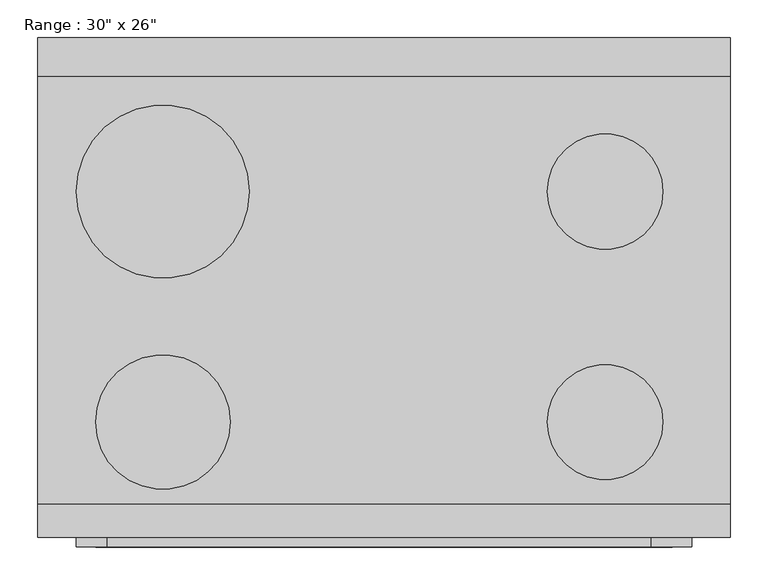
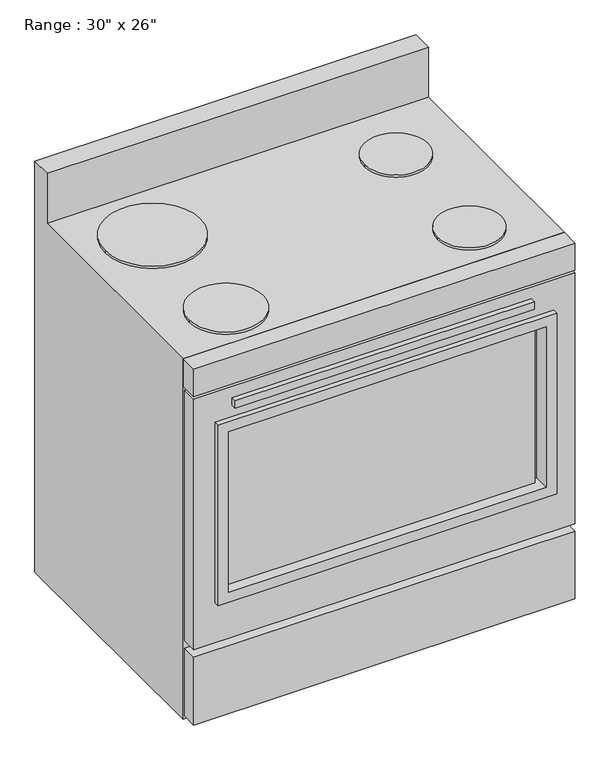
"""IFC4 building model written with IfcOpenShell, lengths in millimetres: proxy geometry."""

import ifcopenshell
import ifcopenshell.guid

model = None  # the IFC model being written
_history = None  # IfcOwnerHistory: only IFC2X3 demands one
_inside = {}  # id of a spatial element -> (the spatial element, [elements in it])
_under = {}  # id of a project, library or spatial element -> (it, [spatial elements below it])
_declared = {}  # id of a project -> (the project, [libraries it declares])
_typed = {}  # id of a type object -> (the type object, [elements of that type])
_made_of = {}  # id of a material, layer set ... -> (it, [elements and type objects made of it])


def new_model(schema):
    """Start an empty IFC model of exactly this schema.

    Asked for "IFC4X3", IfcOpenShell would pick the latest addendum, in which some entities
    have other attributes; the version numbers below select the first issue.
    IFC2X3 requires an IfcOwnerHistory on every rooted entity: one is made here for all.
    """
    global model, _history
    if schema == "IFC4X3":
        model = ifcopenshell.file(schema_version=(4, 3, 0, 0))
    else:
        model = ifcopenshell.file(schema=schema)
    _inside.clear()
    _under.clear()
    _declared.clear()
    _typed.clear()
    _made_of.clear()
    _history = None
    if model.schema == "IFC2X3":
        org = make("IfcOrganization", Name="unknown")
        user = make(
            "IfcPersonAndOrganization",
            ThePerson=make("IfcPerson", FamilyName="unknown"),
            TheOrganization=org,
        )
        app = make(
            "IfcApplication",
            ApplicationDeveloper=org,
            Version="unknown",
            ApplicationFullName="unknown",
            ApplicationIdentifier="unknown",
        )
        _history = make(
            "IfcOwnerHistory",
            OwningUser=user,
            OwningApplication=app,
            ChangeAction="ADDED",
            CreationDate=0,
        )
    return model


def make(cls, **values):
    """One entity of the class cls with the attributes given. An attribute that is None is left unset."""
    return model.create_entity(
        cls, **{name: value for name, value in values.items() if value is not None}
    )


def rooted(cls, **values):
    """An entity with a GlobalId (a new one), such as an element, a storey or a relation."""
    return make(cls, GlobalId=ifcopenshell.guid.new(), OwnerHistory=_history, **values)


def si_unit(unit_type, name, prefix=None):
    """IfcSIUnit, for example si_unit("LENGTHUNIT", "METRE", prefix="MILLI")."""
    return make("IfcSIUnit", UnitType=unit_type, Prefix=prefix, Name=name)


def assignment(units):
    """IfcUnitAssignment: the units of a project."""
    return None if units is None else make("IfcUnitAssignment", Units=units)


def point(xyz):
    """IfcCartesianPoint."""
    return None if xyz is None else make("IfcCartesianPoint", Coordinates=xyz)


def direction(xyz):
    """IfcDirection."""
    return None if xyz is None else make("IfcDirection", DirectionRatios=xyz)


def frame(location, z_axis=None, x_axis=None):
    """IfcAxis2Placement3D, a coordinate frame: its origin and axes. An axis left out is left unset."""
    return make(
        "IfcAxis2Placement3D",
        Location=point(location),
        Axis=direction(z_axis),
        RefDirection=direction(x_axis),
    )


def frame_2d(location, x_axis=None):
    """IfcAxis2Placement2D, a coordinate frame in the plane: its origin and x axis."""
    return make(
        "IfcAxis2Placement2D", Location=point(location), RefDirection=direction(x_axis)
    )


def origin():
    """The frame at (0, 0, 0) with its axes left unset."""
    return frame((0.0, 0.0, 0.0))


def place(relative_to, where):
    """IfcLocalPlacement: puts the frame where relative to a parent placement (None: the world)."""
    return make(
        "IfcLocalPlacement", PlacementRelTo=relative_to, RelativePlacement=where
    )


def context(
    kind, dimensions, precision=None, world=None, true_north=None, identifier=None
):
    """IfcGeometricRepresentationContext, for example the 3D "Model" context."""
    return make(
        "IfcGeometricRepresentationContext",
        ContextIdentifier=identifier,
        ContextType=kind,
        CoordinateSpaceDimension=dimensions,
        Precision=precision,
        WorldCoordinateSystem=world,
        TrueNorth=true_north,
    )


def project(units=None, contexts=None):
    """IfcProject with its units and contexts."""
    return rooted(
        "IfcProject",
        Name="project",
        RepresentationContexts=contexts,
        UnitsInContext=assignment(units),
    )


def spatial(cls, under=None, at=None, **own):
    """A site, building, storey or space (cls), placed at a placement, below another one or the project."""
    s = rooted(cls, ObjectPlacement=at, **own)
    if under is not None:
        _under.setdefault(under.id(), (under, []))[1].append(s)
    return s


def polyline(points):
    """IfcPolyline through the points."""
    return make("IfcPolyline", Points=[point(p) for p in points])


def circle_curve(where, radius):
    """IfcCircle in the frame where."""
    return make("IfcCircle", Position=where, Radius=radius)


def trimmed(basis, trim1, trim2, sense, master):
    """IfcTrimmedCurve: the piece of a basis curve between two trims."""
    return make(
        "IfcTrimmedCurve",
        BasisCurve=basis,
        Trim1=trim1,
        Trim2=trim2,
        SenseAgreement=sense,
        MasterRepresentation=master,
    )


def segment(curve, same_sense, transition):
    """IfcCompositeCurveSegment."""
    return make(
        "IfcCompositeCurveSegment",
        Transition=transition,
        SameSense=same_sense,
        ParentCurve=curve,
    )


def composite_curve(segments, self_intersect=None):
    """IfcCompositeCurve: segments joined end to end."""
    return make("IfcCompositeCurve", Segments=segments, SelfIntersect=self_intersect)


def outline(outer, holes=None, kind="AREA"):
    """IfcArbitraryClosedProfileDef: a profile drawn as a closed curve; with holes, ...WithVoids."""
    if holes is None:
        return make("IfcArbitraryClosedProfileDef", ProfileType=kind, OuterCurve=outer)
    return make(
        "IfcArbitraryProfileDefWithVoids",
        ProfileType=kind,
        OuterCurve=outer,
        InnerCurves=holes,
    )


def extrude(swept, where, along, depth):
    """IfcExtrudedAreaSolid: the profile swept, set in the frame where, extruded along a direction by depth."""
    return make(
        "IfcExtrudedAreaSolid",
        SweptArea=swept,
        Position=where,
        ExtrudedDirection=direction(along),
        Depth=depth,
    )


def faces_of(points, faces, orient=None, outer=None):
    """IfcFace entities. A face is a list of loops; a loop is a list of indices into points, from 0.

    orient and outer hold one flag for each loop. By default every Orientation is true, the
    first loop of a face is its IfcFaceOuterBound and the others are IfcFaceBound.
    """
    made = []
    for i, loops in enumerate(faces):
        bounds = []
        for j, loop in enumerate(loops):
            is_outer = j == 0 if outer is None else outer[i][j]
            bounds.append(
                make(
                    "IfcFaceOuterBound" if is_outer else "IfcFaceBound",
                    Bound=make("IfcPolyLoop", Polygon=[points[k] for k in loop]),
                    Orientation=True if orient is None else orient[i][j],
                )
            )
        made.append(make("IfcFace", Bounds=bounds))
    return made


def faceted_brep(points, faces, orient=None, outer=None, voids=None):
    """IfcFacetedBrep: a solid bounded by flat faces; with voids (closed shells), ...WithVoids."""
    shared = [point(p) for p in points]
    hull = make("IfcClosedShell", CfsFaces=faces_of(shared, faces, orient, outer))
    if voids is None:
        return make("IfcFacetedBrep", Outer=hull)
    return make(
        "IfcFacetedBrepWithVoids",
        Outer=hull,
        Voids=[
            make(cls, CfsFaces=faces_of(shared, fs, o, b)) for cls, fs, o, b in voids
        ],
    )


def shape(context_of_items, identifier, shape_type, items):
    """IfcShapeRepresentation: the items that make up one representation, for example the "Body"."""
    return make(
        "IfcShapeRepresentation",
        ContextOfItems=context_of_items,
        RepresentationIdentifier=identifier,
        RepresentationType=shape_type,
        Items=items,
    )


def source(mapping_origin, context_of_items, identifier, shape_type, items):
    """IfcRepresentationMap: a shape defined once, which mapped items show again and again."""
    return make(
        "IfcRepresentationMap",
        MappingOrigin=mapping_origin,
        MappedRepresentation=shape(context_of_items, identifier, shape_type, items),
    )


def transform(
    local_origin,
    x_axis=None,
    y_axis=None,
    z_axis=None,
    scale=None,
    scale2=None,
    scale3=None,
    uniform=True,
):
    """IfcCartesianTransformationOperator3D, or its non-uniform kind. x_axis, y_axis, z_axis: its Axis1, 2, 3."""
    if uniform:
        return make(
            "IfcCartesianTransformationOperator3D",
            Axis1=direction(x_axis),
            Axis2=direction(y_axis),
            LocalOrigin=point(local_origin),
            Scale=scale,
            Axis3=direction(z_axis),
        )
    return make(
        "IfcCartesianTransformationOperator3DnonUniform",
        Axis1=direction(x_axis),
        Axis2=direction(y_axis),
        LocalOrigin=point(local_origin),
        Scale=scale,
        Axis3=direction(z_axis),
        Scale2=scale2,
        Scale3=scale3,
    )


def mapped(mapping_source, mapping_target):
    """IfcMappedItem: shows the shape of a source again, moved by a transform."""
    return make(
        "IfcMappedItem", MappingSource=mapping_source, MappingTarget=mapping_target
    )


def made_of(thing, what):
    """Note that an element or type object is made of a material, layer set ...; save() writes the relation."""
    if what is not None:
        _made_of.setdefault(what.id(), (what, []))[1].append(thing)
    return thing


def element(
    cls,
    number,
    at=None,
    inside=None,
    cuts=None,
    type_object=None,
    material=None,
    context=None,
    identifier="Body",
    shape_type=None,
    held_by="IfcProductDefinitionShape",
    body=None,
    shapes=None,
    **own,
):
    """One element of the class cls, such as IfcWall. Its Tag is "e" and its number.

    at: its placement. inside: the storey or other place that contains it. cuts: it is an
    opening in that element (IfcRelVoidsElement). A single representation is given by context,
    identifier, shape_type and body (its items); several are given by shapes. held_by: the class
    of the entity that holds the representations. save() writes the other relations.
    """
    e = rooted(cls, Tag="e%d" % number, ObjectPlacement=at, **own)
    if body is not None:
        shapes = [shape(context, identifier, shape_type, body)]
    if shapes is not None:
        e.Representation = make(held_by, Representations=shapes)
    if inside is not None:
        _inside.setdefault(inside.id(), (inside, []))[1].append(e)
    if cuts is not None:
        rooted(
            "IfcRelVoidsElement", RelatingBuildingElement=cuts, RelatedOpeningElement=e
        )
    if type_object is not None:
        _typed.setdefault(type_object.id(), (type_object, []))[1].append(e)
    return made_of(e, material)


def aggregate(whole, parts):
    """IfcRelAggregates: a whole, such as a stair, and the parts it consists of."""
    return rooted("IfcRelAggregates", RelatingObject=whole, RelatedObjects=parts)


def save(model, path):
    """Write the relations noted so far, then the file.

    IfcRelAggregates (storeys below a building ...), IfcRelContainedInSpatialStructure (elements
    in a storey), IfcRelDefinesByType, IfcRelAssociatesMaterial and IfcRelDeclares: one each for
    every whole, place, type object, material and project.
    """
    for whole, parts in _under.values():
        aggregate(whole, parts)
    for where, things in _inside.values():
        rooted(
            "IfcRelContainedInSpatialStructure",
            RelatedElements=things,
            RelatingStructure=where,
        )
    for kind, things in _typed.values():
        rooted("IfcRelDefinesByType", RelatedObjects=things, RelatingType=kind)
    for what, things in _made_of.values():
        rooted("IfcRelAssociatesMaterial", RelatedObjects=things, RelatingMaterial=what)
    for by, libraries in _declared.values():
        rooted("IfcRelDeclares", RelatingContext=by, RelatedDefinitions=libraries)
    model.write(path)


def proxy_28991e61(model_context):
    return source(origin(), model_context, "Body", "SolidModel", [
        faceted_brep([(914.4, 660.4, 0.0), (0.0, 660.4, 0.0), (0.0, 660.4, 1041.4), (914.4, 660.4, 1041.4), (889.0, 660.4, 889.2220355), (25.4, 660.4, 889.2220355), (25.4, 660.4, 254.0), (889.0, 660.4, 254.0), (914.4, 44.45, 914.4), (0.0, 44.45, 914.4), (0.0, 44.45, 0.0), (914.4, 44.45, 0.0), (889.0, 44.45, 889.2220355), (889.0, 44.45, 254.0), (25.4, 44.45, 254.0), (25.4, 44.45, 889.2220355), (914.4, 609.6, 1041.4), (914.4, 609.6, 914.4), (0.0, 609.6, 914.4), (0.0, 609.6, 1041.4)], [[[0, 1, 2, 3], [4, 5, 6, 7]], [[8, 9, 10, 11], [12, 13, 14, 15]], [[0, 3, 16, 17, 8, 11]], [[1, 0, 11, 10]], [[2, 1, 10, 9, 18, 19]], [[9, 8, 17, 18]], [[5, 4, 12, 15]], [[6, 5, 15, 14]], [[7, 6, 14, 13]], [[4, 7, 13, 12]], [[16, 3, 2, 19]], [[17, 16, 19, 18]]]),
        extrude(outline(polyline([(809.625, -12.7), (91.687309, -12.7), (91.687309, 0.0), (809.625, 0.0), (809.625, -12.7)])), frame((0.0, 0.0, 791.2768639), z_axis=(0.0, 0.0, 1.0), x_axis=(1.0, 0.0, 0.0)), (0.0, 0.0, 1.0), 19.05),
        extrude(outline(polyline([(825.5, 12.7), (76.2, 12.7), (76.2, 19.05), (825.5, 19.05), (825.5, 12.7)])), frame((0.0, 0.0, 330.2), z_axis=(0.0, 0.0, 1.0), x_axis=(1.0, 0.0, 0.0)), (0.0, 0.0, 1.0), 406.4),
        extrude(outline(polyline([(914.4, 0.0), (0.0, 0.0), (0.0, 44.45), (914.4, 44.45), (914.4, 0.0)])), frame((0.0, 0.0, 844.7720355), z_axis=(0.0, 0.0, 1.0), x_axis=(1.0, 0.0, 0.0)), (0.0, 0.0, 1.0), 69.6279645),
        extrude(outline(polyline([(762.0, 863.6), (762.0, 50.8), (304.8, 50.8), (304.8, 863.6), (762.0, 863.6)]), holes=[polyline([(736.6, 838.2), (330.2, 838.2), (330.2, 76.2), (736.6, 76.2), (736.6, 838.2)])]), frame((0.0, -12.7, 0.0), z_axis=(0.0, 1.0, 0.0), x_axis=(0.0, 0.0, 1.0)), (0.0, 0.0, 1.0), 38.1),
        extrude(outline(composite_curve([segment(trimmed(circle_curve(frame_2d((165.1, 457.2)), 114.3), [point((50.8, 457.2))], [point((279.4, 457.2))], False, "CARTESIAN"), True, "CONTINUOUS"), segment(trimmed(circle_curve(frame_2d((165.1, 457.2)), 114.3), [point((279.4, 457.2))], [point((50.8, 457.2))], False, "CARTESIAN"), True, "CONTINUOUS")], self_intersect=False)), frame((0.0, 0.0, 914.4), z_axis=(0.0, 0.0, 1.0), x_axis=(1.0, 0.0, 0.0)), (0.0, 0.0, 1.0), 6.35),
        extrude(outline(composite_curve([segment(trimmed(circle_curve(frame_2d((749.3, 457.2)), 76.2), [point((673.1, 457.2))], [point((825.5, 457.2))], False, "CARTESIAN"), True, "CONTINUOUS"), segment(trimmed(circle_curve(frame_2d((749.3, 457.2)), 76.2), [point((825.5, 457.2))], [point((673.1, 457.2))], False, "CARTESIAN"), True, "CONTINUOUS")], self_intersect=False)), frame((0.0, 0.0, 914.4), z_axis=(0.0, 0.0, 1.0), x_axis=(1.0, 0.0, 0.0)), (0.0, 0.0, 1.0), 6.35),
        extrude(outline(composite_curve([segment(trimmed(circle_curve(frame_2d((749.3, 152.4)), 76.2), [point((673.1, 152.4))], [point((825.5, 152.4))], False, "CARTESIAN"), True, "CONTINUOUS"), segment(trimmed(circle_curve(frame_2d((749.3, 152.4)), 76.2), [point((825.5, 152.4))], [point((673.1, 152.4))], False, "CARTESIAN"), True, "CONTINUOUS")], self_intersect=False)), frame((0.0, 0.0, 914.4), z_axis=(0.0, 0.0, 1.0), x_axis=(1.0, 0.0, 0.0)), (0.0, 0.0, 1.0), 6.35),
        extrude(outline(composite_curve([segment(trimmed(circle_curve(frame_2d((165.1, 152.4)), 88.9), [point((76.2, 152.4))], [point((254.0, 152.4))], False, "CARTESIAN"), True, "CONTINUOUS"), segment(trimmed(circle_curve(frame_2d((165.1, 152.4)), 88.9), [point((254.0, 152.4))], [point((76.2, 152.4))], False, "CARTESIAN"), True, "CONTINUOUS")], self_intersect=False)), frame((0.0, 0.0, 914.4), z_axis=(0.0, 0.0, 1.0), x_axis=(1.0, 0.0, 0.0)), (0.0, 0.0, 1.0), 6.35),
        extrude(outline(polyline([(25.4, 660.4), (889.0, 660.4), (889.0, 635.0), (25.4, 635.0), (25.4, 660.4)])), frame((0.0, 0.0, 254.0), z_axis=(0.0, 0.0, 1.0), x_axis=(1.0, 0.0, 0.0)), (0.0, 0.0, 1.0), 635.2220355),
        extrude(outline(polyline([(838.4220355, 914.4), (838.4220355, 0.0), (203.2, 0.0), (203.2, 914.4), (838.4220355, 914.4)]), holes=[polyline([(762.0, 863.6), (304.8, 863.6), (304.8, 50.8), (762.0, 50.8), (762.0, 863.6)])]), frame((0.0, 0.0, 0.0), z_axis=(0.0, 1.0, 0.0), x_axis=(0.0, 0.0, 1.0)), (0.0, 0.0, 1.0), 38.1),
        extrude(outline(polyline([(914.4, 0.0), (0.0, 0.0), (0.0, 38.1), (914.4, 38.1), (914.4, 0.0)])), frame((0.0, 0.0, 12.7), z_axis=(0.0, 0.0, 1.0), x_axis=(1.0, 0.0, 0.0)), (0.0, 0.0, 1.0), 171.45),
    ])


if __name__ == "__main__":
    model = new_model("IFC4")
    model_context = context("Model", 3, world=origin())
    ifc_project = project(units=[si_unit("LENGTHUNIT", "METRE", prefix="MILLI")], contexts=[model_context])
    site = spatial("IfcSite", under=ifc_project)
    building = spatial("IfcBuilding", under=site)
    placement = place(None, origin())
    proxy_shape = proxy_28991e61(model_context)
    element("IfcBuildingElementProxy", 1, Name="Range : 30\" x 26\"", ObjectType="Range : 30\" x 26\"", at=placement, inside=building, context=model_context, shape_type="MappedRepresentation", body=[
        mapped(proxy_shape, transform((0.0, 0.0, 0.0), x_axis=(1.0, 0.0, 0.0), y_axis=(0.0, 1.0, 0.0), z_axis=(0.0, 0.0, 1.0))),
    ])
    save(model, "model.ifc")
